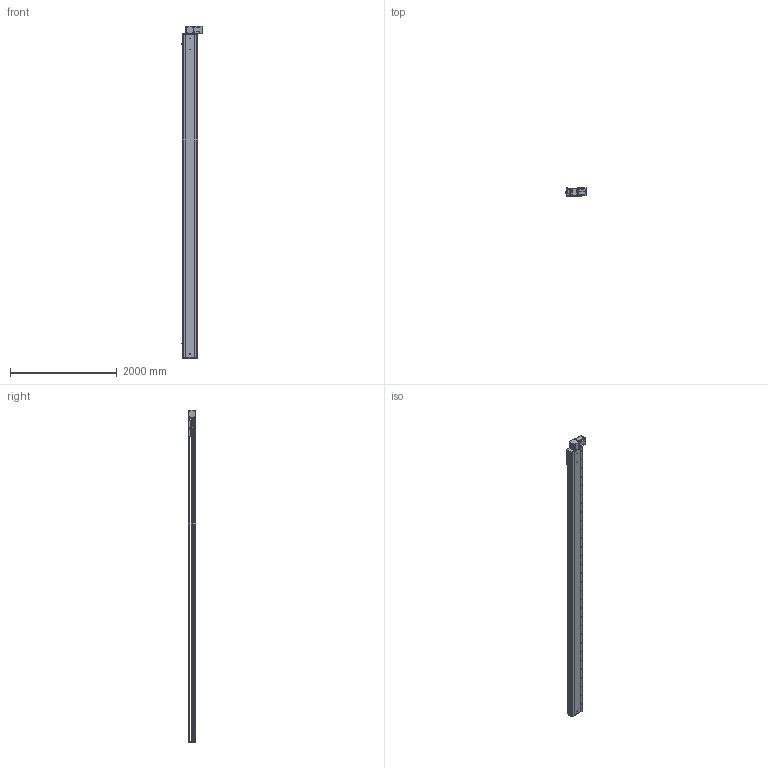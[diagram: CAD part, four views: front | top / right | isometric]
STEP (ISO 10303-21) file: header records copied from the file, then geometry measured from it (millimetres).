
FILE_DESCRIPTION (( 'STEP AP214' ), '1' );
FILE_NAME ('RTB28S-XX-5600-BL-M100-XX-C4.STEP', '2025-12-22T02:57:30', ( '' ), ( '' ), 'SwSTEP 2.0', 'SolidWorks 2018', '' );
FILE_SCHEMA (( 'AUTOMOTIVE_DESIGN' ));
Length unit declared in the file: millimetre
Products named in the file (4): RTB28S-GY-011^RTB28S-XX-XX-BL-M100-XX-C4; RTB28S-XX-5600-BL-M100-XX-C4; RTB28S-GY-008^RTB28S-XX-XX-BL-M100-XX-C4; RTB28S-GY-004^RTB28S-XX-XX-BL-M100-XX-C4
Assembly tree (3 placements, depth 2):
  RTB28S-XX-5600-BL-M100-XX-C4
    RTB28S-GY-011^RTB28S-XX-XX-BL-M100-XX-C4
    RTB28S-GY-004^RTB28S-XX-XX-BL-M100-XX-C4
    RTB28S-GY-008^RTB28S-XX-XX-BL-M100-XX-C4
Bounding box: 380.7 x 145 x 6207 mm (x, y, z)
Volume: 102053579.9 mm3; surface area: 9398882 mm2
Topology: 3 solids, 4 shells, 1018 faces, 2778 edges, 1788 vertices
Faces by surface type: cylinder 543, plane 391, cone 80, torus 4
Entity records: 40691 total; most frequent: CARTESIAN_POINT 8452, DIRECTION 5940, ORIENTED_EDGE 5492, EDGE_CURVE 2746, AXIS2_PLACEMENT_3D 2240, VERTEX_POINT 1788, LINE 1460, VECTOR 1460
